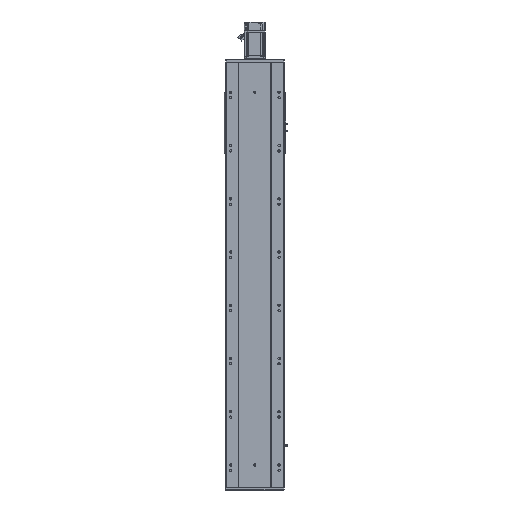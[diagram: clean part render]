
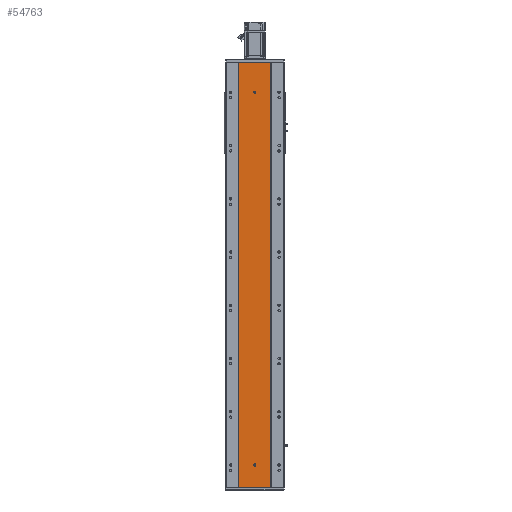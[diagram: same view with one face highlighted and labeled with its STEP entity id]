
A CAD part, front view. The second image highlights one B-rep face of the part: STEP entity #54763.
In plain terms, the highlighted planar face has unit normal (0, -1, 0).
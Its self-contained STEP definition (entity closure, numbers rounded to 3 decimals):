
#174 = DIRECTION ( 'NONE',  ( 0., 0., -1. ) ) ;
#583 = CIRCLE ( 'NONE', #44805, 4. ) ;
#679 = DIRECTION ( 'NONE',  ( 0., -1., 0. ) ) ;
#1293 = VERTEX_POINT ( 'NONE', #7809 ) ;
#1437 = AXIS2_PLACEMENT_3D ( 'NONE', #50619, #5116, #33648 ) ;
#1464 = CARTESIAN_POINT ( 'NONE',  ( -60., 0., 1600. ) ) ;
#1695 = ORIENTED_EDGE ( 'NONE', *, *, #64475, .F. ) ;
#2932 = CARTESIAN_POINT ( 'NONE',  ( 4., 0., 84.5 ) ) ;
#3555 = ORIENTED_EDGE ( 'NONE', *, *, #22043, .T. ) ;
#4385 = AXIS2_PLACEMENT_3D ( 'NONE', #23015, #11280, #17030 ) ;
#4600 = EDGE_CURVE ( 'NONE', #50935, #73305, #13520, .T. ) ;
#5116 = DIRECTION ( 'NONE',  ( 0., -1., 0. ) ) ;
#5387 = CIRCLE ( 'NONE', #7051, 4. ) ;
#6235 = CARTESIAN_POINT ( 'NONE',  ( 60., 0., 0. ) ) ;
#7051 = AXIS2_PLACEMENT_3D ( 'NONE', #25696, #48164, #65422 ) ;
#7145 = VECTOR ( 'NONE', #27150, 1000. ) ;
#7376 = LINE ( 'NONE', #9430, #19878 ) ;
#7809 = CARTESIAN_POINT ( 'NONE',  ( 4., 0., 84.5 ) ) ;
#8706 = DIRECTION ( 'NONE',  ( 0., 0., 1. ) ) ;
#9383 = CARTESIAN_POINT ( 'NONE',  ( -60., 0., 0. ) ) ;
#9430 = CARTESIAN_POINT ( 'NONE',  ( -60., 0., 1600. ) ) ;
#9708 = VERTEX_POINT ( 'NONE', #32078 ) ;
#9865 = CARTESIAN_POINT ( 'NONE',  ( -60., 0., 0. ) ) ;
#10324 = DIRECTION ( 'NONE',  ( 0., -1., 0. ) ) ;
#10871 = VERTEX_POINT ( 'NONE', #6235 ) ;
#10898 = CARTESIAN_POINT ( 'NONE',  ( -4., 0., 84.5 ) ) ;
#11242 = CARTESIAN_POINT ( 'NONE',  ( 0., 0., 1490. ) ) ;
#11280 = DIRECTION ( 'NONE',  ( 0., 1., 0. ) ) ;
#12567 = LINE ( 'NONE', #9865, #7145 ) ;
#13520 = LINE ( 'NONE', #1464, #49270 ) ;
#14748 = AXIS2_PLACEMENT_3D ( 'NONE', #72569, #679, #174 ) ;
#15255 = FACE_BOUND ( 'NONE', #34300, .T. ) ;
#15593 = EDGE_CURVE ( 'NONE', #1293, #51277, #56717, .T. ) ;
#15858 = CARTESIAN_POINT ( 'NONE',  ( -4., 0., 84.5 ) ) ;
#17030 = DIRECTION ( 'NONE',  ( 0., 0., 1. ) ) ;
#17947 = CARTESIAN_POINT ( 'NONE',  ( 60., 0., 1600. ) ) ;
#19878 = VECTOR ( 'NONE', #48425, 1000. ) ;
#20191 = ORIENTED_EDGE ( 'NONE', *, *, #49422, .F. ) ;
#21354 = DIRECTION ( 'NONE',  ( 0., 0., -1. ) ) ;
#22043 = EDGE_CURVE ( 'NONE', #73305, #10871, #12567, .T. ) ;
#23015 = CARTESIAN_POINT ( 'NONE',  ( -60., 0., 1600. ) ) ;
#25214 = VERTEX_POINT ( 'NONE', #11242 ) ;
#25696 = CARTESIAN_POINT ( 'NONE',  ( 0., 0., 84.5 ) ) ;
#26658 = VERTEX_POINT ( 'NONE', #39622 ) ;
#27150 = DIRECTION ( 'NONE',  ( 1., 0., 0. ) ) ;
#28578 = EDGE_LOOP ( 'NONE', ( #45253, #20191, #41804, #41651, #33895 ) ) ;
#28809 = ORIENTED_EDGE ( 'NONE', *, *, #65201, .F. ) ;
#30042 = CARTESIAN_POINT ( 'NONE',  ( 60., 0., 1600. ) ) ;
#30164 = CIRCLE ( 'NONE', #39576, 4. ) ;
#30464 = CARTESIAN_POINT ( 'NONE',  ( 4., 0., 87.5 ) ) ;
#31531 = LINE ( 'NONE', #15858, #60150 ) ;
#31873 = DIRECTION ( 'NONE',  ( 0., 0., -1. ) ) ;
#32078 = CARTESIAN_POINT ( 'NONE',  ( 0., 0., 80.5 ) ) ;
#33648 = DIRECTION ( 'NONE',  ( 0., 0., -1. ) ) ;
#33809 = DIRECTION ( 'NONE',  ( 0., 0., -1. ) ) ;
#33895 = ORIENTED_EDGE ( 'NONE', *, *, #53181, .F. ) ;
#34002 = PLANE ( 'NONE',  #4385 ) ;
#34300 = EDGE_LOOP ( 'NONE', ( #68908, #1695 ) ) ;
#35607 = CIRCLE ( 'NONE', #14748, 4. ) ;
#36268 = VERTEX_POINT ( 'NONE', #70650 ) ;
#38997 = LINE ( 'NONE', #30042, #45209 ) ;
#39576 = AXIS2_PLACEMENT_3D ( 'NONE', #55072, #43073, #31873 ) ;
#39622 = CARTESIAN_POINT ( 'NONE',  ( -4., 0., 87.5 ) ) ;
#40533 = EDGE_CURVE ( 'NONE', #26658, #41048, #31531, .T. ) ;
#41048 = VERTEX_POINT ( 'NONE', #10898 ) ;
#41651 = ORIENTED_EDGE ( 'NONE', *, *, #40533, .F. ) ;
#41750 = DIRECTION ( 'NONE',  ( 0., 0., -1. ) ) ;
#41804 = ORIENTED_EDGE ( 'NONE', *, *, #59127, .F. ) ;
#43073 = DIRECTION ( 'NONE',  ( 0., -1., 0. ) ) ;
#44805 = AXIS2_PLACEMENT_3D ( 'NONE', #56544, #10324, #33809 ) ;
#45209 = VECTOR ( 'NONE', #41750, 1000. ) ;
#45253 = ORIENTED_EDGE ( 'NONE', *, *, #15593, .F. ) ;
#45632 = FACE_BOUND ( 'NONE', #28578, .T. ) ;
#45766 = CIRCLE ( 'NONE', #1437, 4. ) ;
#47455 = FACE_OUTER_BOUND ( 'NONE', #65436, .T. ) ;
#47744 = VECTOR ( 'NONE', #8706, 1000. ) ;
#48164 = DIRECTION ( 'NONE',  ( 0., -1., 0. ) ) ;
#48425 = DIRECTION ( 'NONE',  ( 1., 0., 0. ) ) ;
#49270 = VECTOR ( 'NONE', #64254, 1000. ) ;
#49422 = EDGE_CURVE ( 'NONE', #9708, #1293, #35607, .T. ) ;
#50619 = CARTESIAN_POINT ( 'NONE',  ( 0., 0., 87.5 ) ) ;
#50935 = VERTEX_POINT ( 'NONE', #70477 ) ;
#51277 = VERTEX_POINT ( 'NONE', #30464 ) ;
#53181 = EDGE_CURVE ( 'NONE', #51277, #26658, #45766, .T. ) ;
#54763 = ADVANCED_FACE ( 'NONE', ( #15255, #45632, #47455 ), #34002, .F. ) ;
#55072 = CARTESIAN_POINT ( 'NONE',  ( 0., 0., 1486. ) ) ;
#56544 = CARTESIAN_POINT ( 'NONE',  ( 0., 0., 1486. ) ) ;
#56717 = LINE ( 'NONE', #2932, #47744 ) ;
#59127 = EDGE_CURVE ( 'NONE', #41048, #9708, #5387, .T. ) ;
#60150 = VECTOR ( 'NONE', #21354, 1000. ) ;
#61403 = ORIENTED_EDGE ( 'NONE', *, *, #68361, .F. ) ;
#64254 = DIRECTION ( 'NONE',  ( 0., 0., -1. ) ) ;
#64270 = EDGE_CURVE ( 'NONE', #36268, #25214, #30164, .T. ) ;
#64475 = EDGE_CURVE ( 'NONE', #25214, #36268, #583, .T. ) ;
#64810 = ORIENTED_EDGE ( 'NONE', *, *, #4600, .T. ) ;
#65201 = EDGE_CURVE ( 'NONE', #69875, #10871, #38997, .T. ) ;
#65422 = DIRECTION ( 'NONE',  ( 0., 0., -1. ) ) ;
#65436 = EDGE_LOOP ( 'NONE', ( #3555, #28809, #61403, #64810 ) ) ;
#68361 = EDGE_CURVE ( 'NONE', #50935, #69875, #7376, .T. ) ;
#68908 = ORIENTED_EDGE ( 'NONE', *, *, #64270, .F. ) ;
#69875 = VERTEX_POINT ( 'NONE', #17947 ) ;
#70477 = CARTESIAN_POINT ( 'NONE',  ( -60., 0., 1600. ) ) ;
#70650 = CARTESIAN_POINT ( 'NONE',  ( 0., 0., 1482. ) ) ;
#72569 = CARTESIAN_POINT ( 'NONE',  ( 0., 0., 84.5 ) ) ;
#73305 = VERTEX_POINT ( 'NONE', #9383 ) ;
